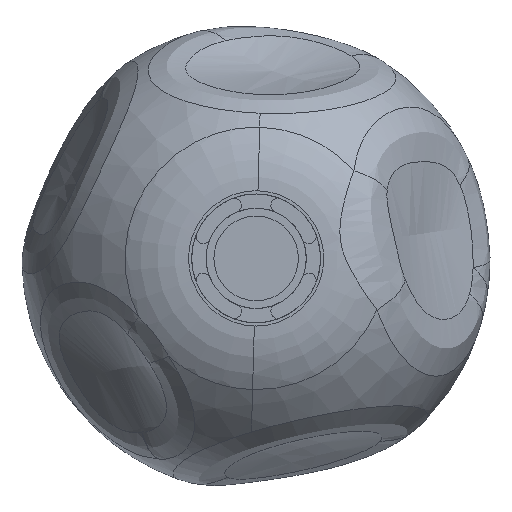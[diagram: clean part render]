
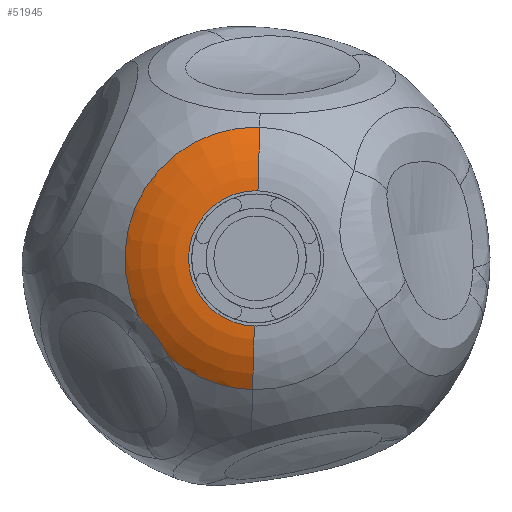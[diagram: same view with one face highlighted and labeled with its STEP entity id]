
A CAD part, front view. The second image highlights one B-rep face of the part: STEP entity #51945.
In plain terms, the highlighted toroidal (fillet/blend) face has major radius 48.727 mm and minor radius 90 mm.
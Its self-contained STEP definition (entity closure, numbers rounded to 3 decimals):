
#916 = DIRECTION ( 'NONE',  ( 0.027, 0., 1. ) ) ;
#1274 = VERTEX_POINT ( 'NONE', #79199 ) ;
#2238 = CARTESIAN_POINT ( 'NONE',  ( -68.786, 24.883, -72.369 ) ) ;
#8210 = CARTESIAN_POINT ( 'NONE',  ( -70.358, 24.298, -69.616 ) ) ;
#8697 = VERTEX_POINT ( 'NONE', #34181 ) ;
#8881 = AXIS2_PLACEMENT_3D ( 'NONE', #60696, #48744, #20793 ) ;
#15996 = CARTESIAN_POINT ( 'NONE',  ( -77.037, 23.287, -59.579 ) ) ;
#16448 = CARTESIAN_POINT ( 'NONE',  ( -85.762, 24.243, -49.245 ) ) ;
#17356 = CARTESIAN_POINT ( 'NONE',  ( -75.153, 23.395, -62.201 ) ) ;
#18818 = CARTESIAN_POINT ( 'NONE',  ( -67.32, 25.657, -75.142 ) ) ;
#18872 = DIRECTION ( 'NONE',  ( 0., 1., 0. ) ) ;
#19961 = CIRCLE ( 'NONE', #88787, 100.888 ) ;
#20793 = DIRECTION ( 'NONE',  ( 0.027, 0., 1. ) ) ;
#21530 = ORIENTED_EDGE ( 'NONE', *, *, #24230, .F. ) ;
#22817 = VERTEX_POINT ( 'NONE', #35967 ) ;
#22872 = CARTESIAN_POINT ( 'NONE',  ( -67.32, 25.657, -75.142 ) ) ;
#24230 = EDGE_CURVE ( 'NONE', #1274, #30205, #36119, .T. ) ;
#24232 = CARTESIAN_POINT ( 'NONE',  ( -76.558, 23.302, -60.23 ) ) ;
#28145 = EDGE_CURVE ( 'NONE', #67071, #8697, #28790, .T. ) ;
#28790 = CIRCLE ( 'NONE', #46332, 48.727 ) ;
#29790 = CARTESIAN_POINT ( 'NONE',  ( 2.731, 25.657, 100.851 ) ) ;
#30205 = VERTEX_POINT ( 'NONE', #29790 ) ;
#30446 = EDGE_CURVE ( 'NONE', #22817, #73607, #19961, .T. ) ;
#31102 = CARTESIAN_POINT ( 'NONE',  ( -73.788, 23.549, -64.193 ) ) ;
#34181 = CARTESIAN_POINT ( 'NONE',  ( 1.319, 9., 48.709 ) ) ;
#34935 = ORIENTED_EDGE ( 'NONE', *, *, #84933, .T. ) ;
#35967 = CARTESIAN_POINT ( 'NONE',  ( -2.731, 25.657, -100.851 ) ) ;
#36119 = CIRCLE ( 'NONE', #39008, 100.888 ) ;
#37074 = CARTESIAN_POINT ( 'NONE',  ( -75.616, 23.356, -61.541 ) ) ;
#37090 = AXIS2_PLACEMENT_3D ( 'NONE', #46754, #68734, #74704 ) ;
#39008 = AXIS2_PLACEMENT_3D ( 'NONE', #68803, #18872, #62375 ) ;
#40483 = DIRECTION ( 'NONE',  ( -0.027, 0., -1. ) ) ;
#43690 = DIRECTION ( 'NONE',  ( 1., 0., -0.027 ) ) ;
#44590 = EDGE_CURVE ( 'NONE', #67071, #22817, #74196, .T. ) ;
#44848 = CARTESIAN_POINT ( 'NONE',  ( -81.494, 23.464, -53.911 ) ) ;
#45304 = ORIENTED_EDGE ( 'NONE', *, *, #30446, .F. ) ;
#46332 = AXIS2_PLACEMENT_3D ( 'NONE', #81730, #75305, #40483 ) ;
#46754 = CARTESIAN_POINT ( 'NONE',  ( 1.319, 99., 48.709 ) ) ;
#46935 = TOROIDAL_SURFACE ( 'NONE', #8881, 48.727, 90. ) ;
#47695 = ORIENTED_EDGE ( 'NONE', *, *, #69195, .T. ) ;
#48637 = B_SPLINE_CURVE_WITH_KNOTS ( 'NONE', 3,
 ( #70988, #86112, #16448, #44848, #85650, #15996, #24232, #37074, #17356, #31102, #79682, #8210, #2238, #22872 ),
 .UNSPECIFIED., .F., .F.,
 ( 4, 2, 2, 2, 2, 2, 4 ),
 ( 0., 0.01, 0.019, 0.022, 0.024, 0.029, 0.038 ),
 .UNSPECIFIED. ) ;
#48744 = DIRECTION ( 'NONE',  ( 0., 1., 0. ) ) ;
#49026 = ORIENTED_EDGE ( 'NONE', *, *, #44590, .F. ) ;
#49520 = CARTESIAN_POINT ( 'NONE',  ( -1.319, 9., -48.709 ) ) ;
#51945 = ADVANCED_FACE ( 'NONE', ( #52926 ), #46935, .T. ) ;
#52926 = FACE_OUTER_BOUND ( 'NONE', #67519, .T. ) ;
#57732 = DIRECTION ( 'NONE',  ( 0., 1., 0. ) ) ;
#59290 = ORIENTED_EDGE ( 'NONE', *, *, #28145, .T. ) ;
#60696 = CARTESIAN_POINT ( 'NONE',  ( 0., 99., 0. ) ) ;
#62375 = DIRECTION ( 'NONE',  ( 0.027, 0., 1. ) ) ;
#63697 = CARTESIAN_POINT ( 'NONE',  ( 0., 25.657, 0. ) ) ;
#67071 = VERTEX_POINT ( 'NONE', #49520 ) ;
#67519 = EDGE_LOOP ( 'NONE', ( #49026, #59290, #34935, #21530, #47695, #45304 ) ) ;
#68734 = DIRECTION ( 'NONE',  ( -1., 0., 0.027 ) ) ;
#68803 = CARTESIAN_POINT ( 'NONE',  ( 0., 25.657, 0. ) ) ;
#69195 = EDGE_CURVE ( 'NONE', #1274, #73607, #48637, .T. ) ;
#70988 = CARTESIAN_POINT ( 'NONE',  ( -90.325, 25.657, -44.942 ) ) ;
#71251 = AXIS2_PLACEMENT_3D ( 'NONE', #79427, #43690, #78058 ) ;
#73607 = VERTEX_POINT ( 'NONE', #18818 ) ;
#74196 = CIRCLE ( 'NONE', #71251, 90. ) ;
#74704 = DIRECTION ( 'NONE',  ( 0.027, 0., 1. ) ) ;
#75305 = DIRECTION ( 'NONE',  ( 0., 1., 0. ) ) ;
#76598 = CIRCLE ( 'NONE', #37090, 90. ) ;
#78058 = DIRECTION ( 'NONE',  ( -0.027, 0., -1. ) ) ;
#79199 = CARTESIAN_POINT ( 'NONE',  ( -90.325, 25.657, -44.942 ) ) ;
#79427 = CARTESIAN_POINT ( 'NONE',  ( -1.319, 99., -48.709 ) ) ;
#79682 = CARTESIAN_POINT ( 'NONE',  ( -72.908, 23.701, -65.539 ) ) ;
#81730 = CARTESIAN_POINT ( 'NONE',  ( 0., 9., 0. ) ) ;
#84933 = EDGE_CURVE ( 'NONE', #8697, #30205, #76598, .T. ) ;
#85650 = CARTESIAN_POINT ( 'NONE',  ( -79.459, 23.276, -56.364 ) ) ;
#86112 = CARTESIAN_POINT ( 'NONE',  ( -87.995, 24.835, -47.032 ) ) ;
#88787 = AXIS2_PLACEMENT_3D ( 'NONE', #63697, #57732, #916 ) ;
